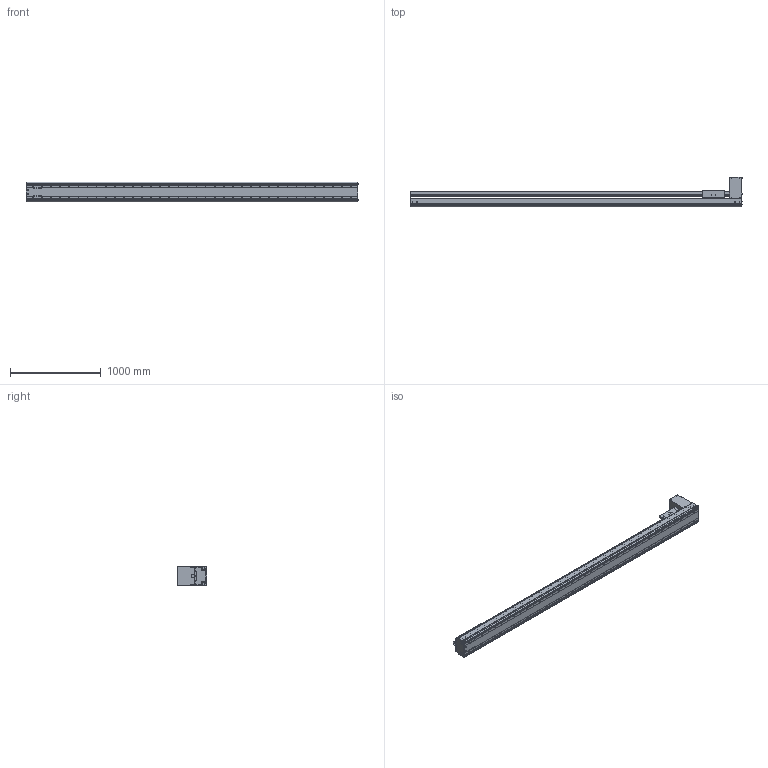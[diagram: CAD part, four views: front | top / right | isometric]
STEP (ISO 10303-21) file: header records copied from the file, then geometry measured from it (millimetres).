
FILE_DESCRIPTION((''),'2;1');
FILE_NAME('BE60J-BT-M19N-W15_IGS_PRT','2017-06-18T',(' '),(''),'PRO/ENGINEER BY PARAMETRIC TECHNOLOGY CORPORATION, 2015030','PRO/ENGINEER BY PARAMETRIC TECHNOLOGY CORPORATION, 2015030','');
FILE_SCHEMA(('CONFIG_CONTROL_DESIGN'));
Products named in the file (1): BE60J-BT-M19N-W15_IGS_PRT
Bounding box: 3654.4 x 327.5 x 214 mm (x, y, z)
Volume: 28867537.3 mm3; surface area: 8492089.1 mm2
Topology: 2 solids, 417 shells, 2891 faces, 8259 edges, 5542 vertices
Faces by surface type: cylinder 1488, plane 981, cone 326, torus 48, sphere 48
Entity records: 97521 total; most frequent: CARTESIAN_POINT 22865, DIRECTION 15551, ORIENTED_EDGE 14608, EDGE_CURVE 8000, AXIS2_PLACEMENT_3D 6002, VERTEX_POINT 5508, EDGE_LOOP 3588, VECTOR 3547
